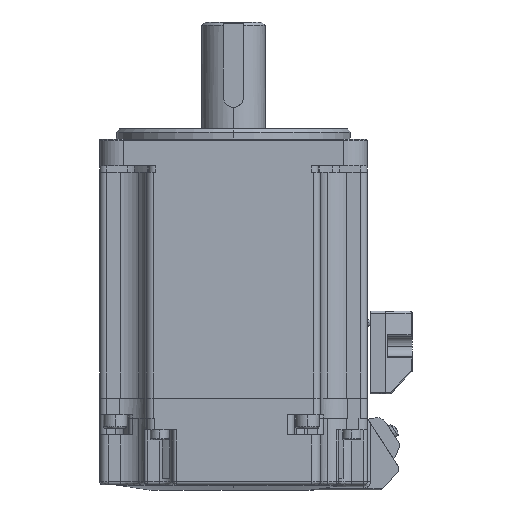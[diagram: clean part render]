
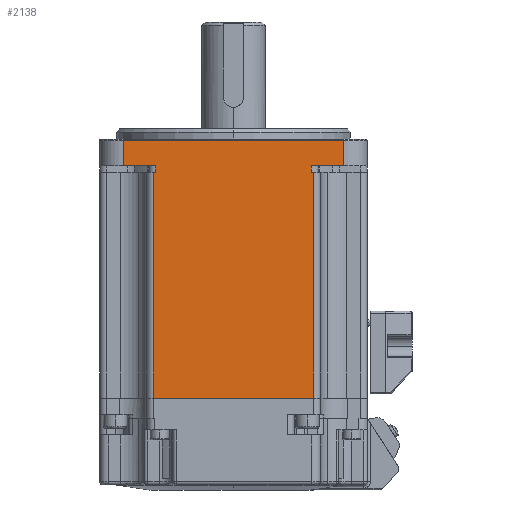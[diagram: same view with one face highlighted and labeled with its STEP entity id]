
A CAD part, left-side view. The second image highlights one B-rep face of the part: STEP entity #2138.
In plain terms, the highlighted planar face has unit normal (-1, 0, 0).
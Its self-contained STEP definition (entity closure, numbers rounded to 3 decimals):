
#395 = ORIENTED_EDGE ( 'NONE', *, *, #18299, .F. ) ;
#460 = AXIS2_PLACEMENT_3D ( 'NONE', #23586, #23488, #30139 ) ;
#919 = ORIENTED_EDGE ( 'NONE', *, *, #29881, .F. ) ;
#1055 = DIRECTION ( 'NONE',  ( 0., 1., 0. ) ) ;
#2138 = ADVANCED_FACE ( 'NONE', ( #15090 ), #18813, .F. ) ;
#2741 = LINE ( 'NONE', #7245, #27122 ) ;
#3659 = VECTOR ( 'NONE', #20549, 1000. ) ;
#3759 = LINE ( 'NONE', #10238, #8932 ) ;
#4463 = EDGE_CURVE ( 'NONE', #27404, #24424, #29723, .T. ) ;
#4596 = EDGE_CURVE ( 'NONE', #8198, #26769, #25709, .T. ) ;
#4976 = LINE ( 'NONE', #16529, #28216 ) ;
#5319 = EDGE_CURVE ( 'NONE', #5513, #17163, #2741, .T. ) ;
#5321 = CARTESIAN_POINT ( 'NONE',  ( -67.793, 32.684, 13.25 ) ) ;
#5358 = VERTEX_POINT ( 'NONE', #12477 ) ;
#5513 = VERTEX_POINT ( 'NONE', #13699 ) ;
#5739 = DIRECTION ( 'NONE',  ( 0., 0., -1. ) ) ;
#5825 = ORIENTED_EDGE ( 'NONE', *, *, #5319, .F. ) ;
#5988 = EDGE_CURVE ( 'NONE', #24424, #9973, #15279, .T. ) ;
#6411 = CARTESIAN_POINT ( 'NONE',  ( -67.793, -23.636, 13.25 ) ) ;
#6747 = CARTESIAN_POINT ( 'NONE',  ( -67.793, -30.636, 13.25 ) ) ;
#7133 = DIRECTION ( 'NONE',  ( 0., 0., -1. ) ) ;
#7245 = CARTESIAN_POINT ( 'NONE',  ( -67.793, 32.684, 21.75 ) ) ;
#7422 = CARTESIAN_POINT ( 'NONE',  ( -67.793, -13.956, 13.25 ) ) ;
#8174 = CARTESIAN_POINT ( 'NONE',  ( -67.793, -13.956, 11.25 ) ) ;
#8198 = VERTEX_POINT ( 'NONE', #6411 ) ;
#8551 = CARTESIAN_POINT ( 'NONE',  ( -67.793, -30.636, 20.75 ) ) ;
#8669 = EDGE_CURVE ( 'NONE', #5358, #13071, #24065, .T. ) ;
#8932 = VECTOR ( 'NONE', #15448, 1000. ) ;
#9036 = CARTESIAN_POINT ( 'NONE',  ( -67.793, -23.636, 11.25 ) ) ;
#9662 = VECTOR ( 'NONE', #25543, 1000. ) ;
#9973 = VERTEX_POINT ( 'NONE', #18789 ) ;
#10025 = VECTOR ( 'NONE', #18149, 1000. ) ;
#10182 = EDGE_CURVE ( 'NONE', #26769, #16825, #15137, .T. ) ;
#10238 = CARTESIAN_POINT ( 'NONE',  ( -67.793, -14.636, 21.75 ) ) ;
#10385 = LINE ( 'NONE', #9036, #9662 ) ;
#11595 = DIRECTION ( 'NONE',  ( 0., 1., 0. ) ) ;
#12275 = CARTESIAN_POINT ( 'NONE',  ( -67.793, 42.364, 13.25 ) ) ;
#12477 = CARTESIAN_POINT ( 'NONE',  ( -67.793, 42.364, 20.75 ) ) ;
#12509 = ORIENTED_EDGE ( 'NONE', *, *, #4596, .F. ) ;
#12623 = CARTESIAN_POINT ( 'NONE',  ( -67.793, -14.636, -56.25 ) ) ;
#12950 = CARTESIAN_POINT ( 'NONE',  ( -67.793, -13.956, 21.75 ) ) ;
#13071 = VERTEX_POINT ( 'NONE', #23892 ) ;
#13105 = VECTOR ( 'NONE', #11595, 1000. ) ;
#13394 = ORIENTED_EDGE ( 'NONE', *, *, #19066, .T. ) ;
#13672 = EDGE_LOOP ( 'NONE', ( #395, #13394, #25281, #12509, #19792, #24191, #19931, #919, #5825, #24018, #27821, #17701 ) ) ;
#13699 = CARTESIAN_POINT ( 'NONE',  ( -67.793, 32.684, 11.25 ) ) ;
#14398 = LINE ( 'NONE', #30184, #22933 ) ;
#15090 = FACE_OUTER_BOUND ( 'NONE', #13672, .T. ) ;
#15137 = LINE ( 'NONE', #12950, #17737 ) ;
#15216 = CARTESIAN_POINT ( 'NONE',  ( -67.793, -30.636, 13.25 ) ) ;
#15279 = LINE ( 'NONE', #17353, #20483 ) ;
#15448 = DIRECTION ( 'NONE',  ( 0., 0., -1. ) ) ;
#15495 = VECTOR ( 'NONE', #1055, 1000. ) ;
#15563 = CARTESIAN_POINT ( 'NONE',  ( -67.793, 33.364, -56.25 ) ) ;
#15782 = CARTESIAN_POINT ( 'NONE',  ( -67.793, -30.636, 11.25 ) ) ;
#16529 = CARTESIAN_POINT ( 'NONE',  ( -67.793, -23.636, 21.75 ) ) ;
#16825 = VERTEX_POINT ( 'NONE', #8174 ) ;
#17163 = VERTEX_POINT ( 'NONE', #5321 ) ;
#17353 = CARTESIAN_POINT ( 'NONE',  ( -67.793, 33.364, 21.75 ) ) ;
#17701 = ORIENTED_EDGE ( 'NONE', *, *, #4463, .F. ) ;
#17737 = VECTOR ( 'NONE', #5739, 1000. ) ;
#18149 = DIRECTION ( 'NONE',  ( 0., -1., 0. ) ) ;
#18299 = EDGE_CURVE ( 'NONE', #23906, #27404, #3759, .T. ) ;
#18789 = CARTESIAN_POINT ( 'NONE',  ( -67.793, 33.364, 11.25 ) ) ;
#18813 = PLANE ( 'NONE',  #460 ) ;
#19066 = EDGE_CURVE ( 'NONE', #23906, #16825, #10385, .T. ) ;
#19192 = LINE ( 'NONE', #15782, #3659 ) ;
#19792 = ORIENTED_EDGE ( 'NONE', *, *, #23476, .F. ) ;
#19931 = ORIENTED_EDGE ( 'NONE', *, *, #29471, .F. ) ;
#20483 = VECTOR ( 'NONE', #28695, 1000. ) ;
#20549 = DIRECTION ( 'NONE',  ( 0., -1., 0. ) ) ;
#22578 = CARTESIAN_POINT ( 'NONE',  ( -67.793, 9.364, -56.25 ) ) ;
#22933 = VECTOR ( 'NONE', #23226, 1000. ) ;
#23226 = DIRECTION ( 'NONE',  ( 0., 0., 1. ) ) ;
#23476 = EDGE_CURVE ( 'NONE', #13071, #8198, #4976, .T. ) ;
#23488 = DIRECTION ( 'NONE',  ( 1., 0., 0. ) ) ;
#23501 = VECTOR ( 'NONE', #29440, 1000. ) ;
#23586 = CARTESIAN_POINT ( 'NONE',  ( -67.793, -30.636, 21.75 ) ) ;
#23781 = DIRECTION ( 'NONE',  ( 0., 0., 1. ) ) ;
#23892 = CARTESIAN_POINT ( 'NONE',  ( -67.793, -23.636, 20.75 ) ) ;
#23906 = VERTEX_POINT ( 'NONE', #28031 ) ;
#24018 = ORIENTED_EDGE ( 'NONE', *, *, #28128, .F. ) ;
#24065 = LINE ( 'NONE', #8551, #10025 ) ;
#24188 = VERTEX_POINT ( 'NONE', #12275 ) ;
#24191 = ORIENTED_EDGE ( 'NONE', *, *, #8669, .F. ) ;
#24424 = VERTEX_POINT ( 'NONE', #15563 ) ;
#25281 = ORIENTED_EDGE ( 'NONE', *, *, #10182, .F. ) ;
#25543 = DIRECTION ( 'NONE',  ( 0., 1., 0. ) ) ;
#25709 = LINE ( 'NONE', #6747, #13105 ) ;
#26769 = VERTEX_POINT ( 'NONE', #7422 ) ;
#27122 = VECTOR ( 'NONE', #23781, 1000. ) ;
#27404 = VERTEX_POINT ( 'NONE', #12623 ) ;
#27821 = ORIENTED_EDGE ( 'NONE', *, *, #5988, .F. ) ;
#28031 = CARTESIAN_POINT ( 'NONE',  ( -67.793, -14.636, 11.25 ) ) ;
#28128 = EDGE_CURVE ( 'NONE', #9973, #5513, #19192, .T. ) ;
#28216 = VECTOR ( 'NONE', #7133, 1000. ) ;
#28695 = DIRECTION ( 'NONE',  ( 0., 0., 1. ) ) ;
#29440 = DIRECTION ( 'NONE',  ( 0., 1., 0. ) ) ;
#29471 = EDGE_CURVE ( 'NONE', #24188, #5358, #14398, .T. ) ;
#29553 = LINE ( 'NONE', #15216, #15495 ) ;
#29723 = LINE ( 'NONE', #22578, #23501 ) ;
#29881 = EDGE_CURVE ( 'NONE', #17163, #24188, #29553, .T. ) ;
#30139 = DIRECTION ( 'NONE',  ( 0., 0., -1. ) ) ;
#30184 = CARTESIAN_POINT ( 'NONE',  ( -67.793, 42.364, 21.75 ) ) ;
